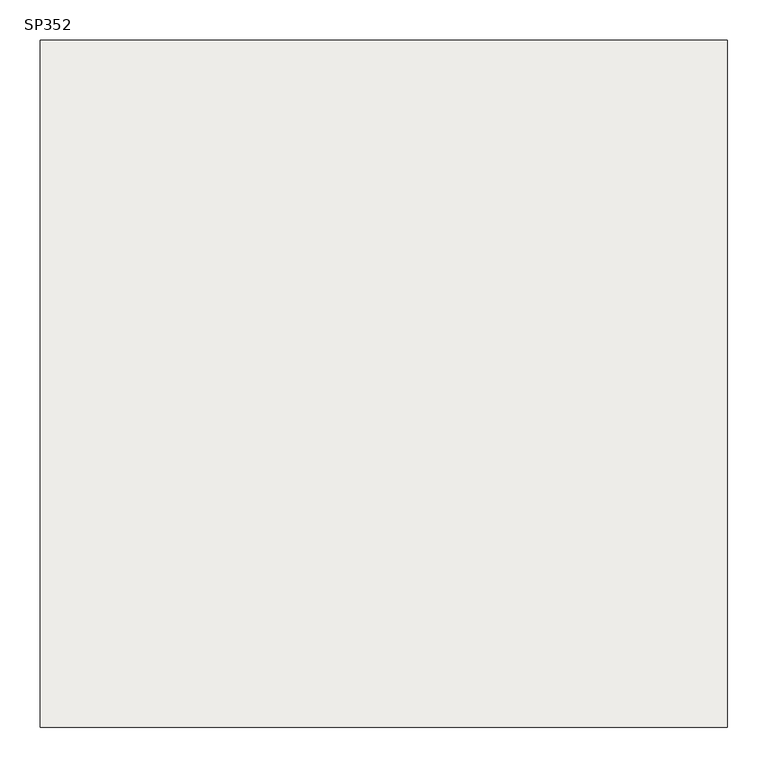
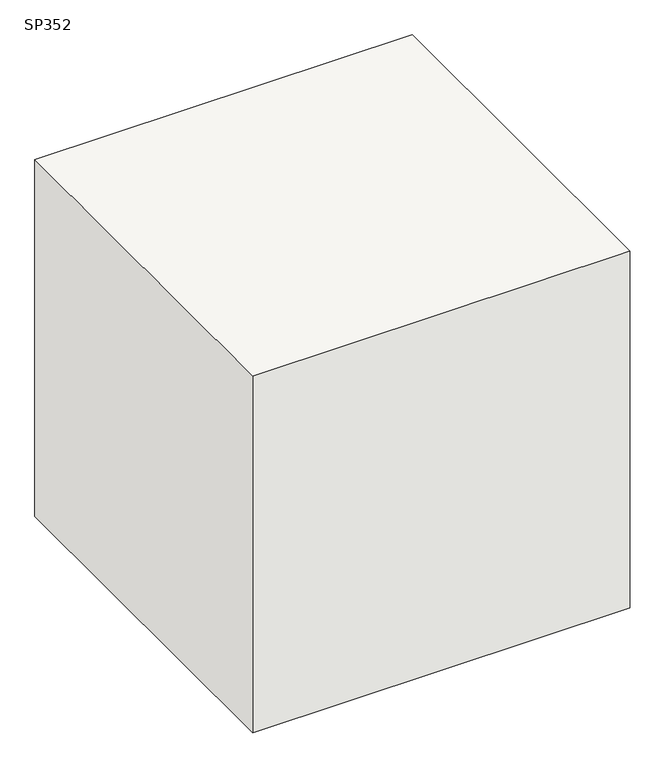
"""IFC4 building model written with IfcOpenShell, lengths in millimetres: slab geometry, 柱形_SP : SP352."""

from ifc_helpers import new_model, si_unit, frame, origin, place, context, project, spatial, polyline, outline, extrude, source, transform, mapped, element, save


def sp352_d6b55bf2(model_context):
    return source(origin(), model_context, "Body", "SweptSolid", [
        extrude(outline(polyline([(425.0, 425.0), (425.0, -425.0), (-425.0, -425.0), (-425.0, 425.0), (425.0, 425.0)])), frame((0.0, 0.0, -850.0), z_axis=(0.0, 0.0, 1.0), x_axis=(1.0, 0.0, 0.0)), (0.0, 0.0, 1.0), 850.0),
    ])


if __name__ == "__main__":
    model = new_model("IFC4")
    model_context = context("Model", 3, world=origin())
    ifc_project = project(units=[si_unit("LENGTHUNIT", "METRE", prefix="MILLI")], contexts=[model_context])
    site = spatial("IfcSite", under=ifc_project)
    building = spatial("IfcBuilding", under=site)
    placement = place(None, origin())
    sp352_shape = sp352_d6b55bf2(model_context)
    element("IfcSlab", 1, ObjectType="柱形_SP : SP352", at=placement, inside=building, context=model_context, shape_type="MappedRepresentation", body=[
        mapped(sp352_shape, transform((0.0, 0.0, 0.0), x_axis=(1.0, 0.0, 0.0), y_axis=(0.0, 1.0, 0.0), z_axis=(0.0, 0.0, 1.0))),
    ])
    save(model, "model.ifc")
